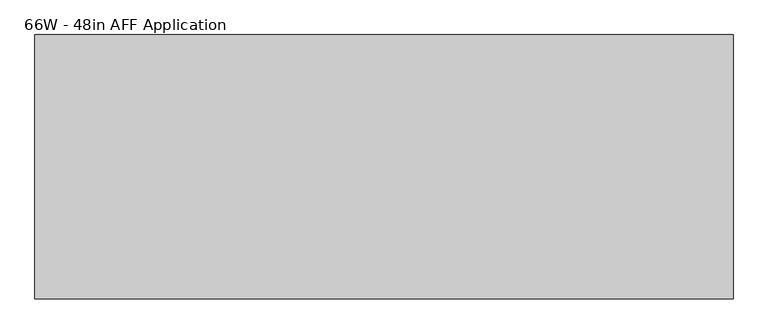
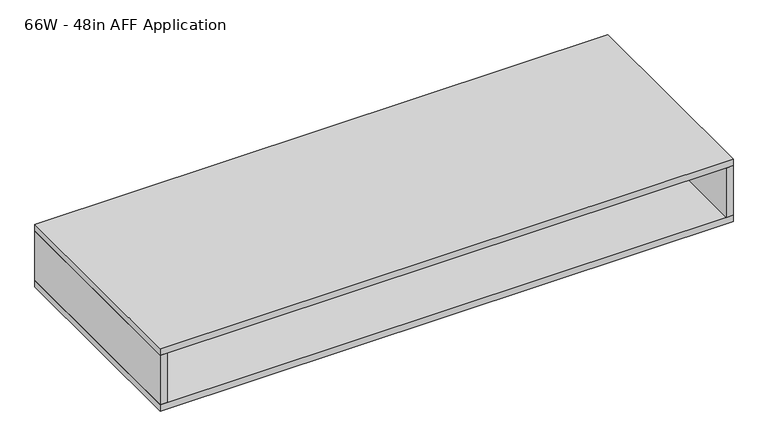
"""IFC4 building model written with IfcOpenShell, lengths in millimetres: furniture geometry, Steelcase - Duo Storage - For Use with Top Cap Mounted Storage - Slim : 66W - 48in AFF Application."""

from ifc_helpers import new_model, si_unit, frame, origin, place, context, project, spatial, polyline, outline, extrude, source, transform, mapped, element, save


def furniture_66w_48in_aff_application_84337265(model_context):
    return source(origin(), model_context, "Body", "SweptSolid", [
        extrude(outline(polyline([(1656.0799516, 317.4999523), (1676.4, 317.4999523), (1676.4, -317.5000477), (1656.0799516, -317.5000477), (1656.0799516, 317.4999523)])), frame((0.0, 0.0, 1242.0599793), z_axis=(0.0, 0.0, 1.0), x_axis=(1.0, 0.0, 0.0)), (0.0, 0.0, 1.0), 152.6539882),
        extrude(outline(polyline([(1676.4, 317.4999523), (1676.4, -317.5000477), (0.0, -317.5000477), (0.0, 317.4999523), (1676.4, 317.4999523)])), frame((0.0, 0.0, 1394.7139674), z_axis=(0.0, 0.0, 1.0), x_axis=(1.0, 0.0, 0.0)), (0.0, 0.0, 1.0), 20.3200326),
        extrude(outline(polyline([(1656.0799516, 11.303), (1656.0799516, -11.303), (20.3199129, -11.303), (20.3199129, 11.303), (1656.0799516, 11.303)])), frame((0.0, 0.0, 1242.0599793), z_axis=(0.0, 0.0, 1.0), x_axis=(1.0, 0.0, 0.0)), (0.0, 0.0, 1.0), 152.6539882),
        extrude(outline(polyline([(20.3199129, 317.4999523), (20.3199129, -317.5000477), (0.0, -317.5000477), (0.0, 317.4999523), (20.3199129, 317.4999523)])), frame((0.0, 0.0, 1242.0599793), z_axis=(0.0, 0.0, 1.0), x_axis=(1.0, 0.0, 0.0)), (0.0, 0.0, 1.0), 152.6539882),
        extrude(outline(polyline([(1676.4, 317.4999523), (1676.4, -317.5000477), (0.0, -317.5000477), (0.0, 317.4999523), (1676.4, 317.4999523)])), frame((0.0, 0.0, 1221.74), z_axis=(0.0, 0.0, 1.0), x_axis=(1.0, 0.0, 0.0)), (0.0, 0.0, 1.0), 20.3199793),
    ])


if __name__ == "__main__":
    model = new_model("IFC4")
    model_context = context("Model", 3, world=origin())
    ifc_project = project(units=[si_unit("LENGTHUNIT", "METRE", prefix="MILLI")], contexts=[model_context])
    site = spatial("IfcSite", under=ifc_project)
    building = spatial("IfcBuilding", under=site)
    placement = place(None, origin())
    furniture_66w_48in_aff_application_shape = furniture_66w_48in_aff_application_84337265(model_context)
    element("IfcFurniture", 1, ObjectType="Steelcase - Duo Storage - For Use with Top Cap Mounted Storage - Slim : 66W - 48in AFF Application", at=placement, inside=building, context=model_context, shape_type="MappedRepresentation", body=[
        mapped(furniture_66w_48in_aff_application_shape, transform((0.0, 0.0, 0.0), x_axis=(1.0, 0.0, 0.0), y_axis=(0.0, 1.0, 0.0), z_axis=(0.0, 0.0, 1.0))),
    ])
    save(model, "model.ifc")
